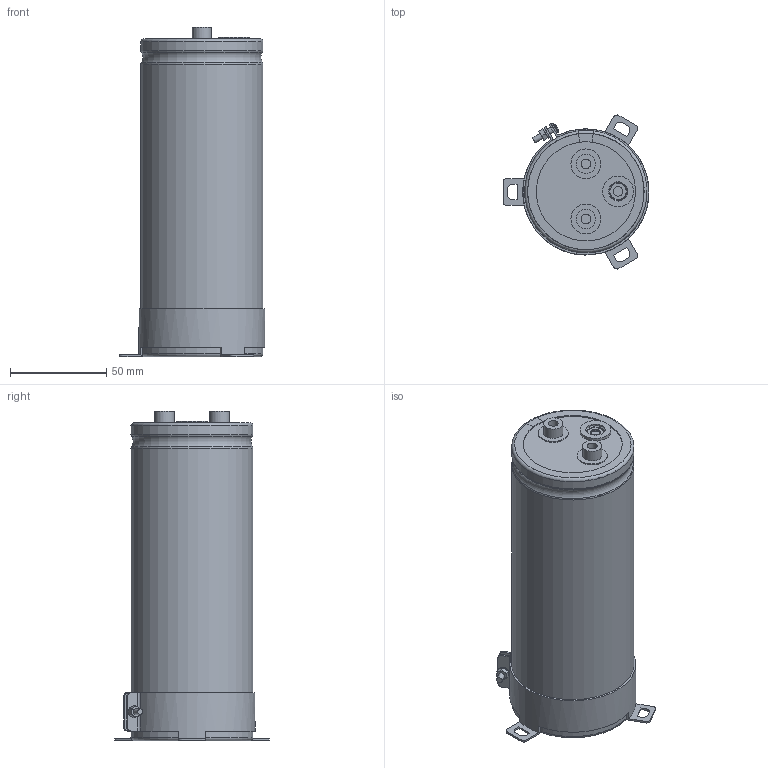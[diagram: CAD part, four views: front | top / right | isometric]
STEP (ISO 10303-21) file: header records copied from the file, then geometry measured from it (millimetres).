
FILE_DESCRIPTION(/* description */ (''),/* implementation_level */ '2;1');
FILE_NAME(/* name */ '63.5x165_Screw.stp',/* time_stamp */ '2017-09-15T19:49:25+09:00',/* author */ (''),/* organization */ (''),/* preprocessor_version */ 'ST-DEVELOPER v16',/* originating_system */ 'SIEMENS PLM Software NX 11.0',/* authorisation */ '');
FILE_SCHEMA (('AUTOMOTIVE_DESIGN { 1 0 10303 214 3 1 1 1 }'));
Length unit declared in the file: millimetre
Products named in the file (1): 63.5x165_Screw
Bounding box: 75.75 x 80.01 x 171 mm (x, y, z)
Volume: 524785 mm3; surface area: 119436.3 mm2
Topology: 9 solids, 9 shells, 259 faces, 644 edges, 415 vertices
Faces by surface type: plane 112, cylinder 66, torus 49, cone 31, sphere 1
Full cylindrical faces by diameter (mm): 3 x5, 5 x6, 5.5 x2, 10 x4, 15.5 x2, 16 x1, 62.3 x2
Entity records: 8411 total; most frequent: CARTESIAN_POINT 2059, DIRECTION 1296, ORIENTED_EDGE 1214, EDGE_CURVE 607, AXIS2_PLACEMENT_3D 541, VERTEX_POINT 408, EDGE_LOOP 317, CIRCLE 281
